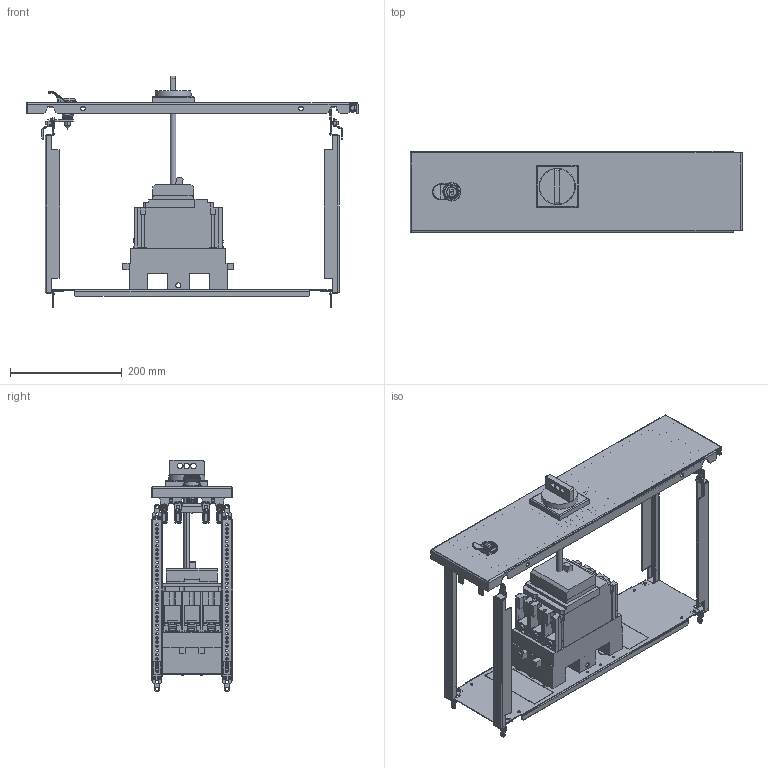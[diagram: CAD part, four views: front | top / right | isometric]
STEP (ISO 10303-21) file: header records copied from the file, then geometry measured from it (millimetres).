
FILE_DESCRIPTION(('CAx-IF Rec.Pracs.---Model Styling and Organization---1.2---2011-12-15','CAx-IF Rec.Pracs.---Geometric and Assembly Validation Properties---4.1---2014-06-16','CAx-IF Rec.Pracs.---PMI Polyline Presentation---2.0---2013-05-24'),'2;1');
FILE_NAME('R5PKEB7H62213 (P).stp','2021-07-29T02:14:41+03:00',(''),(''),'STEP Interface 4.4 by CT CoreTechnologie','3D_Evolution4.4 by CT CoreTechnologie','');
FILE_SCHEMA(('AUTOMOTIVE_DESIGN { 1 0 10303 214 1 1 1 1 }'));
Length unit declared in the file: millimetre
Products named in the file (1): R5PKEB7H62213 (P)
Bounding box: 594 x 145 x 413.9 mm (x, y, z)
Surface area: 949285.8 mm2 (no closed solid volume)
Topology: 0 solids, 83 shells, 3127 faces, 8618 edges, 5674 vertices
Faces by surface type: plane 1630, cylinder 1085, bspline 412
Entity records: 111844 total; most frequent: CARTESIAN_POINT 31060, ORIENTED_EDGE 17164, DIRECTION 16224, EDGE_CURVE 8585, VECTOR 5718, LINE 5718, VERTEX_POINT 5691, AXIS2_PLACEMENT_3D 5253
